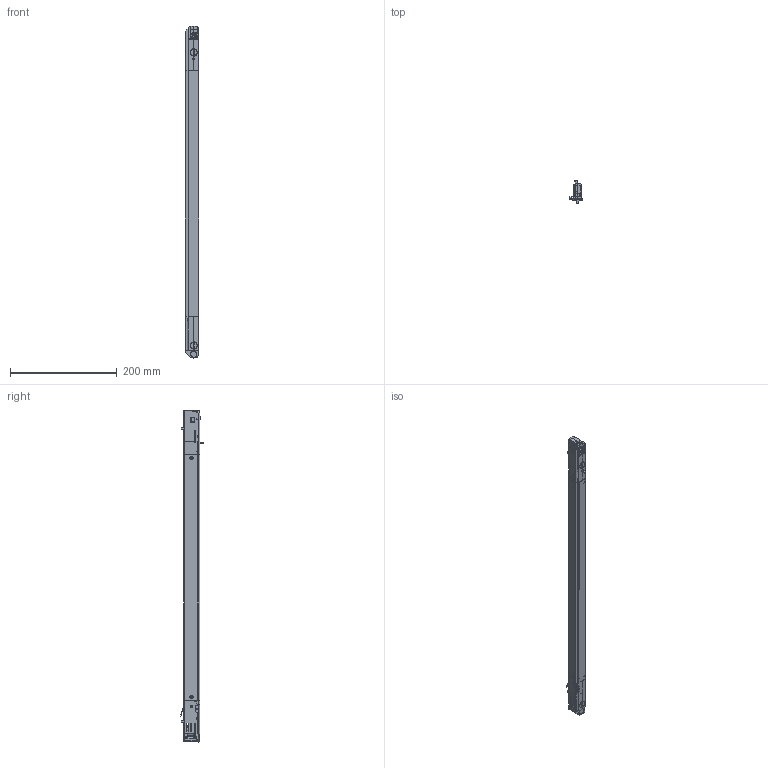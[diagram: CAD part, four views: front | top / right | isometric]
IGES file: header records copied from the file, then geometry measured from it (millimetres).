
Global section: file name: C:\CoreTechnologie\3D-In/020YE0AY06.igs; native system: CT CoreTechnologie 3D Evolution; preprocessor: 2006; date: 1200525.095619; units: millimetre
Bounding box: 24.4 x 43.18 x 622.5 mm (x, y, z)
Volume: 70504 mm3; surface area: 153793.5 mm2
Topology: 34 solids, 34 shells, 3587 faces, 9961 edges, 6585 vertices
Faces by surface type: plane 2550, revolution 714, bspline 323
